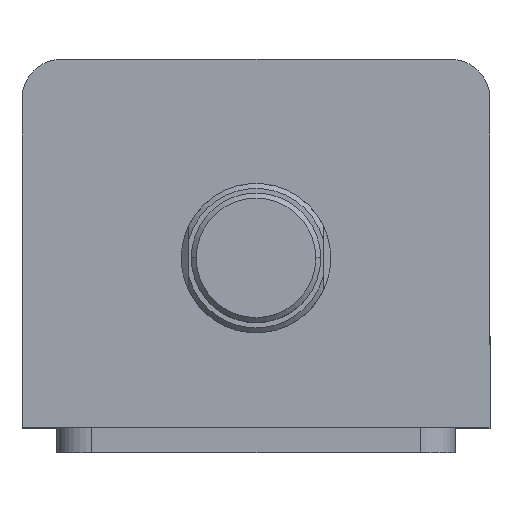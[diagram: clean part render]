
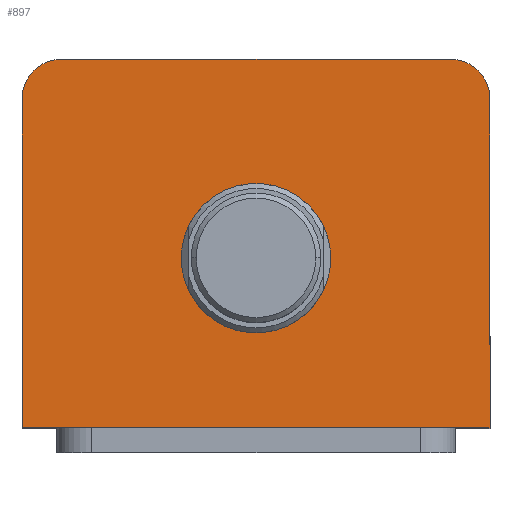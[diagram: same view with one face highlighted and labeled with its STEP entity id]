
A CAD part, top view. The second image highlights one B-rep face of the part: STEP entity #897.
In plain terms, the highlighted planar face has unit normal (0, 0, 1).
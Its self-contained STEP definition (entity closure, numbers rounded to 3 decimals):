
#145 = DIRECTION ( 'NONE',  ( 1., 0., 0. ) ) ;
#147 = DIRECTION ( 'NONE',  ( 0., 0., 1. ) ) ;
#148 = CARTESIAN_POINT ( 'NONE',  ( 39., 29., 155. ) ) ;
#156 = CARTESIAN_POINT ( 'NONE',  ( 0., -3., 155. ) ) ;
#176 = DIRECTION ( 'NONE',  ( -1., 0., 0. ) ) ;
#206 = CARTESIAN_POINT ( 'NONE',  ( -47., 37., 155. ) ) ;
#234 = DIRECTION ( 'NONE',  ( 0., 0., 1. ) ) ;
#236 = DIRECTION ( 'NONE',  ( 1., 0., 0. ) ) ;
#324 = FACE_BOUND ( 'NONE', #2262, .T. ) ;
#329 = FACE_OUTER_BOUND ( 'NONE', #2288, .T. ) ;
#383 = VECTOR ( 'NONE', #3092, 1000. ) ;
#384 = LINE ( 'NONE', #3093, #383 ) ;
#451 = CIRCLE ( 'NONE', #1392, 15. ) ;
#476 = LINE ( 'NONE', #206, #479 ) ;
#479 = VECTOR ( 'NONE', #176, 1000. ) ;
#539 = CIRCLE ( 'NONE', #1417, 8. ) ;
#553 = CIRCLE ( 'NONE', #1425, 8. ) ;
#561 = LINE ( 'NONE', #2638, #564 ) ;
#564 = VECTOR ( 'NONE', #2635, 1000. ) ;
#577 = LINE ( 'NONE', #2608, #580 ) ;
#580 = VECTOR ( 'NONE', #2607, 1000. ) ;
#594 = CIRCLE ( 'NONE', #1430, 15. ) ;
#897 = ADVANCED_FACE ( 'NONE', ( #324, #329 ), #3097, .T. ) ;
#939 = EDGE_CURVE ( 'NONE', #2466, #2551, #384, .T. ) ;
#981 = EDGE_CURVE ( 'NONE', #2446, #2462, #451, .T. ) ;
#996 = EDGE_CURVE ( 'NONE', #2523, #2433, #476, .T. ) ;
#1038 = EDGE_CURVE ( 'NONE', #2551, #2523, #539, .T. ) ;
#1048 = EDGE_CURVE ( 'NONE', #2433, #2540, #553, .T. ) ;
#1054 = EDGE_CURVE ( 'NONE', #2550, #2466, #561, .T. ) ;
#1062 = EDGE_CURVE ( 'NONE', #2540, #2550, #577, .T. ) ;
#1071 = EDGE_CURVE ( 'NONE', #2462, #2446, #594, .T. ) ;
#1349 = AXIS2_PLACEMENT_3D ( 'NONE', #3007, #2880, #3069 ) ;
#1392 = AXIS2_PLACEMENT_3D ( 'NONE', #156, #234, #236 ) ;
#1417 = AXIS2_PLACEMENT_3D ( 'NONE', #148, #147, #145 ) ;
#1425 = AXIS2_PLACEMENT_3D ( 'NONE', #2704, #2702, #2700 ) ;
#1430 = AXIS2_PLACEMENT_3D ( 'NONE', #2693, #2692, #2691 ) ;
#1806 = CARTESIAN_POINT ( 'NONE',  ( 47., -37., 155. ) ) ;
#1841 = CARTESIAN_POINT ( 'NONE',  ( 15., -3., 155. ) ) ;
#1851 = CARTESIAN_POINT ( 'NONE',  ( -15., -3., 155. ) ) ;
#1886 = CARTESIAN_POINT ( 'NONE',  ( -39., 37., 155. ) ) ;
#1892 = CARTESIAN_POINT ( 'NONE',  ( 47., 29., 155. ) ) ;
#1893 = CARTESIAN_POINT ( 'NONE',  ( -47., -37., 155. ) ) ;
#1908 = CARTESIAN_POINT ( 'NONE',  ( -47., 29., 155. ) ) ;
#1919 = CARTESIAN_POINT ( 'NONE',  ( 39., 37., 155. ) ) ;
#2205 = ORIENTED_EDGE ( 'NONE', *, *, #1071, .F. ) ;
#2206 = ORIENTED_EDGE ( 'NONE', *, *, #981, .F. ) ;
#2207 = ORIENTED_EDGE ( 'NONE', *, *, #996, .T. ) ;
#2208 = ORIENTED_EDGE ( 'NONE', *, *, #1048, .T. ) ;
#2209 = ORIENTED_EDGE ( 'NONE', *, *, #1062, .T. ) ;
#2210 = ORIENTED_EDGE ( 'NONE', *, *, #1054, .T. ) ;
#2211 = ORIENTED_EDGE ( 'NONE', *, *, #939, .T. ) ;
#2212 = ORIENTED_EDGE ( 'NONE', *, *, #1038, .T. ) ;
#2262 = EDGE_LOOP ( 'NONE', ( #2205, #2206 ) ) ;
#2288 = EDGE_LOOP ( 'NONE', ( #2207, #2208, #2209, #2210, #2211, #2212 ) ) ;
#2433 = VERTEX_POINT ( 'NONE', #1886 ) ;
#2446 = VERTEX_POINT ( 'NONE', #1851 ) ;
#2462 = VERTEX_POINT ( 'NONE', #1841 ) ;
#2466 = VERTEX_POINT ( 'NONE', #1806 ) ;
#2523 = VERTEX_POINT ( 'NONE', #1919 ) ;
#2540 = VERTEX_POINT ( 'NONE', #1908 ) ;
#2550 = VERTEX_POINT ( 'NONE', #1893 ) ;
#2551 = VERTEX_POINT ( 'NONE', #1892 ) ;
#2607 = DIRECTION ( 'NONE',  ( 0., -1., 0. ) ) ;
#2608 = CARTESIAN_POINT ( 'NONE',  ( -47., 37., 155. ) ) ;
#2635 = DIRECTION ( 'NONE',  ( 1., 0., 0. ) ) ;
#2638 = CARTESIAN_POINT ( 'NONE',  ( -47., -37., 155. ) ) ;
#2691 = DIRECTION ( 'NONE',  ( 1., 0., 0. ) ) ;
#2692 = DIRECTION ( 'NONE',  ( 0., 0., 1. ) ) ;
#2693 = CARTESIAN_POINT ( 'NONE',  ( 0., -3., 155. ) ) ;
#2700 = DIRECTION ( 'NONE',  ( 1., 0., 0. ) ) ;
#2702 = DIRECTION ( 'NONE',  ( 0., 0., 1. ) ) ;
#2704 = CARTESIAN_POINT ( 'NONE',  ( -39., 29., 155. ) ) ;
#2880 = DIRECTION ( 'NONE',  ( 0., 0., 1. ) ) ;
#3007 = CARTESIAN_POINT ( 'NONE',  ( 0., 0., 155. ) ) ;
#3069 = DIRECTION ( 'NONE',  ( 1., 0., 0. ) ) ;
#3092 = DIRECTION ( 'NONE',  ( 0., 1., 0. ) ) ;
#3093 = CARTESIAN_POINT ( 'NONE',  ( 47., 37., 155. ) ) ;
#3097 = PLANE ( 'NONE',  #1349 ) ;
